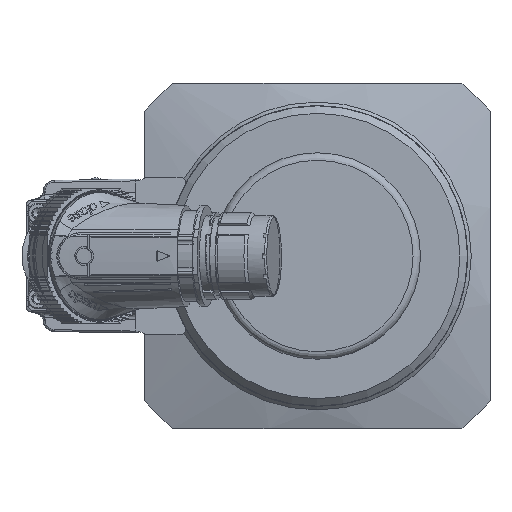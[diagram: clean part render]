
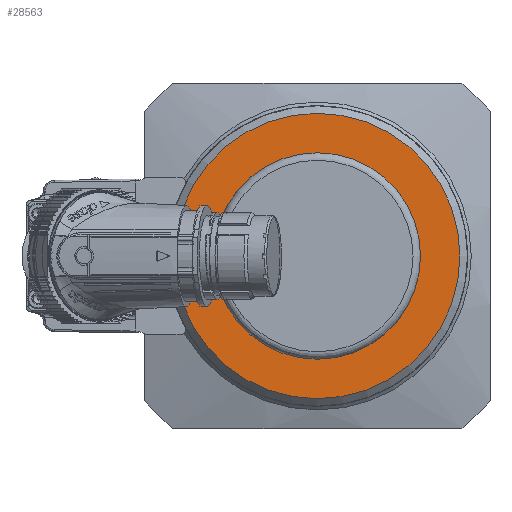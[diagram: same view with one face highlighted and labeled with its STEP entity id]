
A CAD part, left-side view. The second image highlights one B-rep face of the part: STEP entity #28563.
In plain terms, the highlighted planar face has unit normal (-1, 0, 0).
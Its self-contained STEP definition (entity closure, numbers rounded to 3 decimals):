
#40 = FACE_OUTER_BOUND ( 'NONE', #43307, .T. ) ;
#378 = FACE_BOUND ( 'NONE', #74509, .T. ) ;
#1919 = CARTESIAN_POINT ( 'NONE',  ( -445.9, 0., 0. ) ) ;
#8470 = DIRECTION ( 'NONE',  ( 0., 0., 1. ) ) ;
#9524 = VERTEX_POINT ( 'NONE', #74248 ) ;
#12366 = CARTESIAN_POINT ( 'NONE',  ( -445.9, 0., -27.5 ) ) ;
#17667 = AXIS2_PLACEMENT_3D ( 'NONE', #1919, #47128, #8470 ) ;
#20229 = ORIENTED_EDGE ( 'NONE', *, *, #62090, .T. ) ;
#24770 = CARTESIAN_POINT ( 'NONE',  ( -445.9, 0., 0. ) ) ;
#26252 = DIRECTION ( 'NONE',  ( 0., 0., 1. ) ) ;
#28563 = ADVANCED_FACE ( 'NONE', ( #40, #378 ), #58319, .T. ) ;
#31225 = DIRECTION ( 'NONE',  ( 0., 0., -1. ) ) ;
#37926 = EDGE_CURVE ( 'NONE', #9524, #9524, #56407, .T. ) ;
#38798 = CARTESIAN_POINT ( 'NONE',  ( -445.9, 27.5, 0. ) ) ;
#42892 = AXIS2_PLACEMENT_3D ( 'NONE', #24770, #69855, #31225 ) ;
#43307 = EDGE_LOOP ( 'NONE', ( #61233 ) ) ;
#46108 = AXIS2_PLACEMENT_3D ( 'NONE', #38798, #64772, #26252 ) ;
#47128 = DIRECTION ( 'NONE',  ( -1., 0., 0. ) ) ;
#56407 = CIRCLE ( 'NONE', #17667, 37.999 ) ;
#58319 = PLANE ( 'NONE',  #46108 ) ;
#61233 = ORIENTED_EDGE ( 'NONE', *, *, #37926, .T. ) ;
#62090 = EDGE_CURVE ( 'NONE', #83502, #83502, #79825, .T. ) ;
#64772 = DIRECTION ( 'NONE',  ( -1., 0., 0. ) ) ;
#69855 = DIRECTION ( 'NONE',  ( 1., 0., 0. ) ) ;
#74248 = CARTESIAN_POINT ( 'NONE',  ( -445.9, 0., 37.999 ) ) ;
#74509 = EDGE_LOOP ( 'NONE', ( #20229 ) ) ;
#79825 = CIRCLE ( 'NONE', #42892, 27.5 ) ;
#83502 = VERTEX_POINT ( 'NONE', #12366 ) ;
